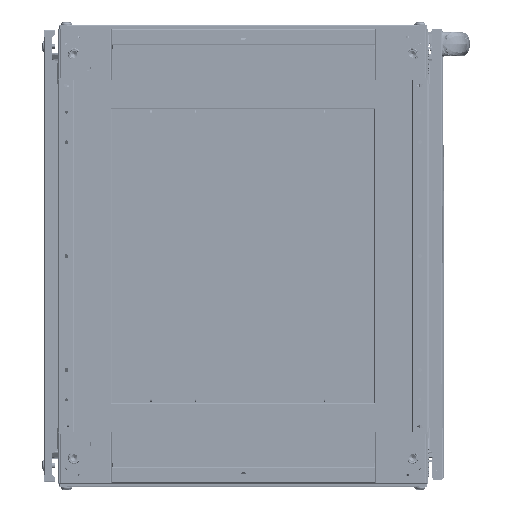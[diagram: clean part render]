
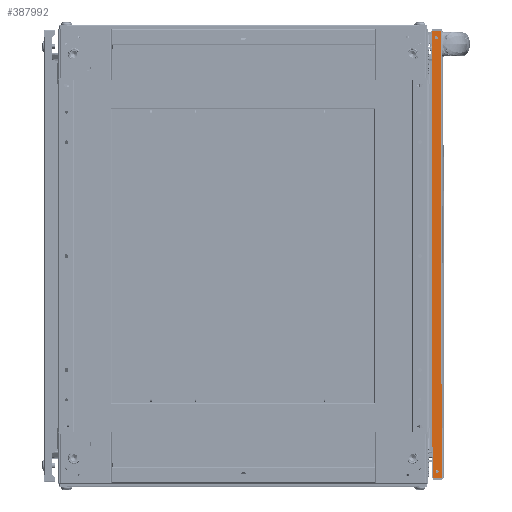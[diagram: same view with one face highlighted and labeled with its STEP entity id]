
A CAD part, front view. The second image highlights one B-rep face of the part: STEP entity #387992.
In plain terms, the highlighted planar face has unit normal (0, -1, 0) as drawn and (-1, 0, 0) by its records, which use the part's own axes.
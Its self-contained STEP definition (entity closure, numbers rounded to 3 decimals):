
#1189 = EDGE_LOOP ( 'NONE', ( #314425, #53273, #352768, #626116 ) ) ;
#5725 = ORIENTED_EDGE ( 'NONE', *, *, #129868, .T. ) ;
#12094 = DIRECTION ( 'NONE',  ( 1., 0., 0. ) ) ;
#14919 = EDGE_CURVE ( 'NONE', #156869, #178458, #373672, .T. ) ;
#19124 = VECTOR ( 'NONE', #46123, 1000. ) ;
#21182 = CARTESIAN_POINT ( 'NONE',  ( -2.01, 9., -13.3 ) ) ;
#23935 = VERTEX_POINT ( 'NONE', #303159 ) ;
#24022 = EDGE_CURVE ( 'NONE', #183341, #156869, #385875, .T. ) ;
#30081 = VERTEX_POINT ( 'NONE', #539492 ) ;
#30759 = CARTESIAN_POINT ( 'NONE',  ( -2.01, 16., 0. ) ) ;
#46123 = DIRECTION ( 'NONE',  ( 0., 1., 0. ) ) ;
#53273 = ORIENTED_EDGE ( 'NONE', *, *, #24022, .T. ) ;
#61395 = DIRECTION ( 'NONE',  ( 0., 0., -1. ) ) ;
#94112 = CARTESIAN_POINT ( 'NONE',  ( -2.01, 9., -677. ) ) ;
#103931 = CARTESIAN_POINT ( 'NONE',  ( -2.01, 16., 0. ) ) ;
#114906 = VECTOR ( 'NONE', #61395, 1000. ) ;
#125854 = CIRCLE ( 'NONE', #426286, 2.3 ) ;
#125942 = FACE_OUTER_BOUND ( 'NONE', #1189, .T. ) ;
#126958 = LINE ( 'NONE', #615130, #333783 ) ;
#127023 = VERTEX_POINT ( 'NONE', #21182 ) ;
#129482 = FACE_BOUND ( 'NONE', #667949, .T. ) ;
#129868 = EDGE_CURVE ( 'NONE', #147727, #30081, #616314, .T. ) ;
#136584 = DIRECTION ( 'NONE',  ( 0., 1., 0. ) ) ;
#147727 = VERTEX_POINT ( 'NONE', #158071 ) ;
#156869 = VERTEX_POINT ( 'NONE', #30759 ) ;
#158071 = CARTESIAN_POINT ( 'NONE',  ( -2.01, 9., -674.7 ) ) ;
#178458 = VERTEX_POINT ( 'NONE', #193239 ) ;
#183341 = VERTEX_POINT ( 'NONE', #188832 ) ;
#188832 = CARTESIAN_POINT ( 'NONE',  ( -2.01, 2.01, 0. ) ) ;
#191486 = EDGE_CURVE ( 'NONE', #183341, #23935, #556731, .T. ) ;
#193239 = CARTESIAN_POINT ( 'NONE',  ( -2.01, 16., -688. ) ) ;
#239804 = DIRECTION ( 'NONE',  ( 0., 0., -1. ) ) ;
#240574 = VECTOR ( 'NONE', #539839, 1000. ) ;
#253468 = CARTESIAN_POINT ( 'NONE',  ( -2.01, 9., -11. ) ) ;
#272359 = ORIENTED_EDGE ( 'NONE', *, *, #578859, .T. ) ;
#274875 = AXIS2_PLACEMENT_3D ( 'NONE', #423008, #643474, #368834 ) ;
#280459 = CIRCLE ( 'NONE', #603977, 2.3 ) ;
#282122 = ORIENTED_EDGE ( 'NONE', *, *, #530790, .T. ) ;
#303159 = CARTESIAN_POINT ( 'NONE',  ( -2.01, 2.01, -688. ) ) ;
#314425 = ORIENTED_EDGE ( 'NONE', *, *, #191486, .F. ) ;
#326111 = AXIS2_PLACEMENT_3D ( 'NONE', #563449, #350067, #136584 ) ;
#333783 = VECTOR ( 'NONE', #510158, 1000. ) ;
#350067 = DIRECTION ( 'NONE',  ( 1., 0., 0. ) ) ;
#352768 = ORIENTED_EDGE ( 'NONE', *, *, #14919, .T. ) ;
#368834 = DIRECTION ( 'NONE',  ( 0., 0., -1. ) ) ;
#373672 = LINE ( 'NONE', #594106, #240574 ) ;
#385875 = LINE ( 'NONE', #103931, #19124 ) ;
#387992 = ADVANCED_FACE ( 'NONE', ( #624776, #129482, #125942 ), #411375, .F. ) ;
#394545 = EDGE_CURVE ( 'NONE', #178458, #23935, #126958, .T. ) ;
#397595 = CARTESIAN_POINT ( 'NONE',  ( -2.01, 2.01, -688. ) ) ;
#398985 = CARTESIAN_POINT ( 'NONE',  ( -2.01, 9., -677. ) ) ;
#411375 = PLANE ( 'NONE',  #326111 ) ;
#423008 = CARTESIAN_POINT ( 'NONE',  ( -2.01, 9., -11. ) ) ;
#426286 = AXIS2_PLACEMENT_3D ( 'NONE', #253468, #470350, #575297 ) ;
#470350 = DIRECTION ( 'NONE',  ( 1., 0., 0. ) ) ;
#509780 = CARTESIAN_POINT ( 'NONE',  ( -2.01, 9., -8.7 ) ) ;
#510158 = DIRECTION ( 'NONE',  ( 0., -1., 0. ) ) ;
#530790 = EDGE_CURVE ( 'NONE', #30081, #147727, #280459, .T. ) ;
#539492 = CARTESIAN_POINT ( 'NONE',  ( -2.01, 9., -679.3 ) ) ;
#539839 = DIRECTION ( 'NONE',  ( 0., 0., -1. ) ) ;
#556731 = LINE ( 'NONE', #397595, #114906 ) ;
#563449 = CARTESIAN_POINT ( 'NONE',  ( -2.01, 16., -688. ) ) ;
#575148 = DIRECTION ( 'NONE',  ( 0., 0., -1. ) ) ;
#575297 = DIRECTION ( 'NONE',  ( 0., 0., -1. ) ) ;
#578859 = EDGE_CURVE ( 'NONE', #625333, #127023, #713507, .T. ) ;
#590486 = EDGE_CURVE ( 'NONE', #127023, #625333, #125854, .T. ) ;
#594106 = CARTESIAN_POINT ( 'NONE',  ( -2.01, 16., -688. ) ) ;
#603977 = AXIS2_PLACEMENT_3D ( 'NONE', #94112, #629395, #575148 ) ;
#615130 = CARTESIAN_POINT ( 'NONE',  ( -2.01, 16., -688. ) ) ;
#616314 = CIRCLE ( 'NONE', #629277, 2.3 ) ;
#624776 = FACE_BOUND ( 'NONE', #671604, .T. ) ;
#625333 = VERTEX_POINT ( 'NONE', #509780 ) ;
#626116 = ORIENTED_EDGE ( 'NONE', *, *, #394545, .T. ) ;
#629277 = AXIS2_PLACEMENT_3D ( 'NONE', #398985, #12094, #239804 ) ;
#629395 = DIRECTION ( 'NONE',  ( 1., 0., 0. ) ) ;
#643474 = DIRECTION ( 'NONE',  ( 1., 0., 0. ) ) ;
#665500 = ORIENTED_EDGE ( 'NONE', *, *, #590486, .T. ) ;
#667949 = EDGE_LOOP ( 'NONE', ( #665500, #272359 ) ) ;
#671604 = EDGE_LOOP ( 'NONE', ( #282122, #5725 ) ) ;
#713507 = CIRCLE ( 'NONE', #274875, 2.3 ) ;
